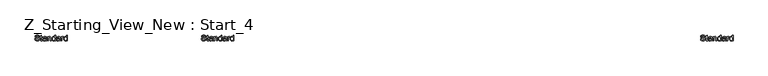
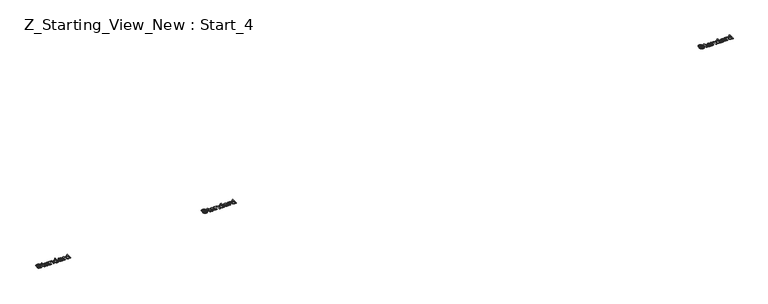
"""IFC4 building model written with IfcOpenShell, lengths in millimetres: pipe fitting geometry, Z_Starting_View_New : Start_4."""

from ifc_helpers import new_model, si_unit, origin, origin_with_axes, place, context, project, spatial, polyline, outline, extrude, source, transform, mapped, element, save


def z_starting_view_new_start_4_25d7ddd4(model_context):
    return source(origin(), model_context, "Body", "SweptSolid", [
        extrude(outline(polyline([(25158.6619591, 7155.3175869), (25171.2189979, 7155.3175869), (25175.2656999, 7142.7482854), (25185.1494628, 7134.8020343), (25200.2080991, 7131.7731392), (25213.3292236, 7134.0662703), (25221.8027722, 7140.3693151), (25224.5864127, 7148.7938128), (25222.501748, 7156.6296993), (25213.9668857, 7162.3318703), (25195.6831506, 7167.1265989), (25176.0014638, 7173.3192792), (25165.3206232, 7182.6634819), (25161.8012188, 7195.1469442), (25166.1544891, 7209.359452), (25178.8709434, 7219.3903677), (25197.4857724, 7222.8116703), (25217.3514001, 7219.2309522), (25230.5951519, 7208.7095271), (25235.5738216, 7192.9887032), (25223.0167828, 7192.9887032), (25220.711389, 7200.4812332), (25215.9043976, 7205.8890985), (25197.9762817, 7210.2546315), (25179.9991149, 7205.9381494), (25174.3582576, 7195.5148262), (25178.3559086, 7186.8082857), (25198.8591985, 7179.7940023), (25221.079271, 7173.4909574), (25233.2316396, 7163.3128889), (25237.1434514, 7149.1126439), (25232.6430284, 7134.0907958), (25219.6935821, 7123.1279123), (25200.6986085, 7119.2161004), (25178.2700695, 7123.4344806), (25164.0820872, 7136.1386722), (25158.6619591, 7155.3175869)])), origin_with_axes(), (0.0, 0.0, 1.0), 5.0),
        extrude(outline(polyline([(25281.0930871, 7131.2581044), (25282.662717, 7120.4178483), (25273.2694634, 7119.2161004), (25262.7480383, 7121.3007651), (25257.4995885, 7126.7699441), (25255.9790096, 7141.01924), (25255.9790096, 7182.0012943), (25246.5612305, 7182.0012943), (25246.5612305, 7194.558333), (25255.9790096, 7194.558333), (25255.9790096, 7212.4864489), (25268.5360484, 7219.8686143), (25268.5360484, 7194.558333), (25281.0930871, 7194.558333), (25281.0930871, 7182.0012943), (25268.5360484, 7182.0012943), (25268.5360484, 7141.387122), (25269.198236, 7134.9123989), (25271.3442143, 7132.6192678), (25275.6239081, 7131.7731392), (25281.0930871, 7131.2581044)])), origin_with_axes(), (0.0, 0.0, 1.0), 5.0),
        extrude(outline(polyline([(25340.7390213, 7130.2035093), (25328.5621272, 7121.6931725), (25315.109909, 7119.2161004), (25304.616075, 7120.7060225), (25296.8752247, 7125.1757887), (25292.1019558, 7131.9632116), (25290.5108662, 7140.4061033), (25292.9143619, 7150.3389172), (25299.2296695, 7157.5494043), (25308.0220492, 7161.6696827), (25318.8868308, 7163.5581436), (25340.6654449, 7167.8746256), (25340.7390213, 7170.6705288), (25337.2809305, 7179.9411551), (25323.3995166, 7183.5709241), (25310.695325, 7181.1551657), (25304.6375348, 7172.5835152), (25292.0804961, 7174.153145), (25297.5128868, 7186.4158782), (25308.4512448, 7193.6018398), (25325.0181974, 7196.1279629), (25340.2362492, 7193.8961454), (25348.8324252, 7188.2920764), (25352.6829234, 7179.7694768), (25353.2960601, 7168.7820679), (25353.2960601, 7153.1593458), (25353.9337222, 7131.3439435), (25356.4353197, 7120.7857303), (25343.878281, 7120.7857303), (25340.7390213, 7130.2035093)]), holes=[polyline([(25340.7390213, 7155.3175869), (25320.4809861, 7151.4670887), (25309.6775182, 7149.431475), (25304.7846876, 7146.120537), (25303.067905, 7141.2890201), (25306.8080386, 7134.495466), (25317.7831848, 7131.7731392), (25330.4873764, 7134.7775088), (25338.6788821, 7142.0493096), (25340.6654449, 7151.7613943), (25340.7390213, 7155.3175869)])]), origin_with_axes(), (0.0, 0.0, 1.0), 5.0),
        extrude(outline(polyline([(25370.5619884, 7120.7857303), (25370.5619884, 7194.558333), (25383.1190271, 7194.558333), (25383.1190271, 7184.2576372), (25392.7207472, 7193.1603815), (25405.829609, 7196.1279629), (25417.6876719, 7193.7367299), (25425.7810758, 7187.4582105), (25429.5457349, 7178.2243724), (25430.2079225, 7166.0842666), (25430.2079225, 7120.7857303), (25417.6508837, 7120.7857303), (25417.6508837, 7164.3920094), (25416.2038812, 7175.5020457), (25411.0903215, 7181.3758949), (25402.4696201, 7183.5709241), (25388.8457235, 7178.6413054), (25384.5507012, 7171.4982633), (25383.1190271, 7159.9283746), (25383.1190271, 7120.7857303), (25370.5619884, 7120.7857303)])), origin_with_axes(), (0.0, 0.0, 1.0), 5.0),
        extrude(outline(polyline([(25492.9931164, 7120.7857303), (25492.9931164, 7132.6315305), (25484.6851146, 7122.5699579), (25473.201065, 7119.2161004), (25457.6519193, 7124.0721428), (25446.6645104, 7137.6224629), (25442.7649613, 7157.5984553), (25446.3579421, 7177.5867103), (25457.1246218, 7191.3454969), (25473.1520141, 7196.1279629), (25484.7280342, 7192.7066603), (25492.9931164, 7183.8161788), (25492.9931164, 7221.2420404), (25505.5501551, 7221.2420404), (25505.5501551, 7120.7857303), (25492.9931164, 7120.7857303)]), holes=[polyline([(25455.322, 7157.6475062), (25456.7383457, 7146.2891496), (25460.9873828, 7138.2110741), (25467.1616689, 7133.3826229), (25474.3537619, 7131.7731392), (25481.5427893, 7133.3090465), (25487.5607256, 7137.9167685), (25491.6350187, 7145.6821443), (25492.9931164, 7156.691013), (25491.6104932, 7168.7268856), (25487.4626237, 7177.0716755), (25481.2914032, 7181.946112), (25473.8387271, 7183.5709241), (25466.5730577, 7182.0104913), (25460.6195008, 7177.3291929), (25456.6463752, 7169.2879056), (25455.322, 7157.6475062)])]), origin_with_axes(), (0.0, 0.0, 1.0), 5.0),
        extrude(outline(polyline([(25571.4746087, 7130.2035093), (25559.2977146, 7121.6931725), (25545.8454963, 7119.2161004), (25535.3516624, 7120.7060225), (25527.6108121, 7125.1757887), (25522.8375432, 7131.9632116), (25521.2464536, 7140.4061033), (25523.6499493, 7150.3389172), (25529.9652569, 7157.5494043), (25538.7576366, 7161.6696827), (25549.6224181, 7163.5581436), (25571.4010323, 7167.8746256), (25571.4746087, 7170.6705288), (25568.0165179, 7179.9411551), (25554.135104, 7183.5709241), (25541.4309124, 7181.1551657), (25535.3731222, 7172.5835152), (25522.8160834, 7174.153145), (25528.2484742, 7186.4158782), (25539.1868322, 7193.6018398), (25555.7537847, 7196.1279629), (25570.9718366, 7193.8961454), (25579.5680126, 7188.2920764), (25583.4185108, 7179.7694768), (25584.0316474, 7168.7820679), (25584.0316474, 7153.1593458), (25584.6693096, 7131.3439435), (25587.1709071, 7120.7857303), (25574.6138683, 7120.7857303), (25571.4746087, 7130.2035093)]), holes=[polyline([(25571.4746087, 7155.3175869), (25551.2165735, 7151.4670887), (25540.4131055, 7149.431475), (25535.520275, 7146.120537), (25533.8034924, 7141.2890201), (25537.543626, 7134.495466), (25548.5187722, 7131.7731392), (25561.2229637, 7134.7775088), (25569.4144695, 7142.0493096), (25571.4010323, 7151.7613943), (25571.4746087, 7155.3175869)])]), origin_with_axes(), (0.0, 0.0, 1.0), 5.0),
        extrude(outline(polyline([(25601.2975757, 7120.7857303), (25601.2975757, 7194.558333), (25612.2849847, 7194.558333), (25612.2849847, 7183.6445005), (25620.084083, 7193.6999417), (25627.9322322, 7196.1279629), (25640.5383219, 7192.2529392), (25636.3444671, 7180.9957501), (25627.5152993, 7183.5709241), (25620.4151767, 7181.093852), (25615.8902282, 7174.2267214), (25613.8546145, 7159.5604926), (25613.8546145, 7120.7857303), (25601.2975757, 7120.7857303)])), origin_with_axes(), (0.0, 0.0, 1.0), 5.0),
        extrude(outline(polyline([(25693.9057367, 7120.7857303), (25693.9057367, 7132.6315305), (25685.5977349, 7122.5699579), (25674.1136853, 7119.2161004), (25658.5645396, 7124.0721428), (25647.5771307, 7137.6224629), (25643.6775816, 7157.5984553), (25647.2705624, 7177.5867103), (25658.0372421, 7191.3454969), (25674.0646344, 7196.1279629), (25685.6406545, 7192.7066603), (25693.9057367, 7183.8161788), (25693.9057367, 7221.2420404), (25706.4627754, 7221.2420404), (25706.4627754, 7120.7857303), (25693.9057367, 7120.7857303)]), holes=[polyline([(25656.2346203, 7157.6475062), (25657.650966, 7146.2891496), (25661.9000031, 7138.2110741), (25668.0742892, 7133.3826229), (25675.2663822, 7131.7731392), (25682.4554096, 7133.3090465), (25688.4733459, 7137.9167685), (25692.547639, 7145.6821443), (25693.9057367, 7156.691013), (25692.5231135, 7168.7268856), (25688.375244, 7177.0716755), (25682.2040235, 7181.946112), (25674.7513474, 7183.5709241), (25667.485678, 7182.0104913), (25661.5321211, 7177.3291929), (25657.5589955, 7169.2879056), (25656.2346203, 7157.6475062)])]), origin_with_axes(), (0.0, 0.0, 1.0), 5.0),
        extrude(outline(polyline([(33558.6619591, 7155.3175869), (33571.2189979, 7155.3175869), (33575.2656999, 7142.7482854), (33585.1494628, 7134.8020343), (33600.2080991, 7131.7731392), (33613.3292236, 7134.0662703), (33621.8027722, 7140.3693151), (33624.5864127, 7148.7938128), (33622.501748, 7156.6296993), (33613.9668857, 7162.3318703), (33595.6831506, 7167.1265989), (33576.0014638, 7173.3192792), (33565.3206232, 7182.6634819), (33561.8012188, 7195.1469442), (33566.1544891, 7209.359452), (33578.8709434, 7219.3903677), (33597.4857724, 7222.8116703), (33617.3514001, 7219.2309522), (33630.5951519, 7208.7095271), (33635.5738216, 7192.9887032), (33623.0167828, 7192.9887032), (33620.711389, 7200.4812332), (33615.9043976, 7205.8890985), (33597.9762817, 7210.2546315), (33579.9991149, 7205.9381494), (33574.3582576, 7195.5148262), (33578.3559086, 7186.8082857), (33598.8591985, 7179.7940023), (33621.079271, 7173.4909574), (33633.2316396, 7163.3128889), (33637.1434514, 7149.1126439), (33632.6430284, 7134.0907958), (33619.6935821, 7123.1279123), (33600.6986085, 7119.2161004), (33578.2700695, 7123.4344806), (33564.0820872, 7136.1386722), (33558.6619591, 7155.3175869)])), origin_with_axes(), (0.0, 0.0, 1.0), 5.0),
        extrude(outline(polyline([(33681.0930871, 7131.2581044), (33682.662717, 7120.4178483), (33673.2694634, 7119.2161004), (33662.7480383, 7121.3007651), (33657.4995885, 7126.7699441), (33655.9790096, 7141.01924), (33655.9790096, 7182.0012943), (33646.5612305, 7182.0012943), (33646.5612305, 7194.558333), (33655.9790096, 7194.558333), (33655.9790096, 7212.4864489), (33668.5360484, 7219.8686143), (33668.5360484, 7194.558333), (33681.0930871, 7194.558333), (33681.0930871, 7182.0012943), (33668.5360484, 7182.0012943), (33668.5360484, 7141.387122), (33669.198236, 7134.9123989), (33671.3442143, 7132.6192678), (33675.6239081, 7131.7731392), (33681.0930871, 7131.2581044)])), origin_with_axes(), (0.0, 0.0, 1.0), 5.0),
        extrude(outline(polyline([(33740.7390213, 7130.2035093), (33728.5621272, 7121.6931725), (33715.109909, 7119.2161004), (33704.616075, 7120.7060225), (33696.8752247, 7125.1757887), (33692.1019558, 7131.9632116), (33690.5108662, 7140.4061033), (33692.9143619, 7150.3389172), (33699.2296695, 7157.5494043), (33708.0220492, 7161.6696827), (33718.8868308, 7163.5581436), (33740.6654449, 7167.8746256), (33740.7390213, 7170.6705288), (33737.2809305, 7179.9411551), (33723.3995166, 7183.5709241), (33710.695325, 7181.1551657), (33704.6375348, 7172.5835152), (33692.0804961, 7174.153145), (33697.5128868, 7186.4158782), (33708.4512448, 7193.6018398), (33725.0181974, 7196.1279629), (33740.2362492, 7193.8961454), (33748.8324252, 7188.2920764), (33752.6829234, 7179.7694768), (33753.2960601, 7168.7820679), (33753.2960601, 7153.1593458), (33753.9337222, 7131.3439435), (33756.4353197, 7120.7857303), (33743.878281, 7120.7857303), (33740.7390213, 7130.2035093)]), holes=[polyline([(33740.7390213, 7155.3175869), (33720.4809861, 7151.4670887), (33709.6775182, 7149.431475), (33704.7846876, 7146.120537), (33703.067905, 7141.2890201), (33706.8080386, 7134.495466), (33717.7831848, 7131.7731392), (33730.4873764, 7134.7775088), (33738.6788821, 7142.0493096), (33740.6654449, 7151.7613943), (33740.7390213, 7155.3175869)])]), origin_with_axes(), (0.0, 0.0, 1.0), 5.0),
        extrude(outline(polyline([(33770.5619884, 7120.7857303), (33770.5619884, 7194.558333), (33783.1190271, 7194.558333), (33783.1190271, 7184.2576372), (33792.7207472, 7193.1603815), (33805.829609, 7196.1279629), (33817.6876719, 7193.7367299), (33825.7810758, 7187.4582105), (33829.5457349, 7178.2243724), (33830.2079225, 7166.0842666), (33830.2079225, 7120.7857303), (33817.6508837, 7120.7857303), (33817.6508837, 7164.3920094), (33816.2038812, 7175.5020457), (33811.0903215, 7181.3758949), (33802.4696201, 7183.5709241), (33788.8457235, 7178.6413054), (33784.5507012, 7171.4982633), (33783.1190271, 7159.9283746), (33783.1190271, 7120.7857303), (33770.5619884, 7120.7857303)])), origin_with_axes(), (0.0, 0.0, 1.0), 5.0),
        extrude(outline(polyline([(33892.9931164, 7120.7857303), (33892.9931164, 7132.6315305), (33884.6851146, 7122.5699579), (33873.201065, 7119.2161004), (33857.6519193, 7124.0721428), (33846.6645104, 7137.6224629), (33842.7649613, 7157.5984552), (33846.3579421, 7177.5867103), (33857.1246218, 7191.3454969), (33873.1520141, 7196.1279629), (33884.7280342, 7192.7066603), (33892.9931164, 7183.8161788), (33892.9931164, 7221.2420404), (33905.5501551, 7221.2420404), (33905.5501551, 7120.7857303), (33892.9931164, 7120.7857303)]), holes=[polyline([(33855.322, 7157.6475062), (33856.7383457, 7146.2891496), (33860.9873828, 7138.2110741), (33867.1616689, 7133.3826229), (33874.3537619, 7131.7731392), (33881.5427893, 7133.3090465), (33887.5607256, 7137.9167685), (33891.6350187, 7145.6821443), (33892.9931164, 7156.691013), (33891.6104932, 7168.7268856), (33887.4626237, 7177.0716755), (33881.2914032, 7181.946112), (33873.8387271, 7183.5709241), (33866.5730577, 7182.0104913), (33860.6195008, 7177.3291929), (33856.6463752, 7169.2879056), (33855.322, 7157.6475062)])]), origin_with_axes(), (0.0, 0.0, 1.0), 5.0),
        extrude(outline(polyline([(33971.4746087, 7130.2035093), (33959.2977146, 7121.6931725), (33945.8454963, 7119.2161004), (33935.3516624, 7120.7060225), (33927.6108121, 7125.1757887), (33922.8375432, 7131.9632116), (33921.2464536, 7140.4061033), (33923.6499493, 7150.3389172), (33929.9652569, 7157.5494043), (33938.7576366, 7161.6696827), (33949.6224181, 7163.5581436), (33971.4010323, 7167.8746256), (33971.4746087, 7170.6705288), (33968.0165179, 7179.9411551), (33954.135104, 7183.5709241), (33941.4309124, 7181.1551657), (33935.3731222, 7172.5835152), (33922.8160834, 7174.153145), (33928.2484742, 7186.4158782), (33939.1868322, 7193.6018398), (33955.7537847, 7196.1279629), (33970.9718366, 7193.8961454), (33979.5680126, 7188.2920764), (33983.4185108, 7179.7694768), (33984.0316474, 7168.7820679), (33984.0316474, 7153.1593458), (33984.6693096, 7131.3439435), (33987.1709071, 7120.7857303), (33974.6138683, 7120.7857303), (33971.4746087, 7130.2035093)]), holes=[polyline([(33971.4746087, 7155.3175869), (33951.2165735, 7151.4670887), (33940.4131055, 7149.431475), (33935.520275, 7146.120537), (33933.8034924, 7141.2890201), (33937.543626, 7134.495466), (33948.5187722, 7131.7731392), (33961.2229637, 7134.7775088), (33969.4144695, 7142.0493096), (33971.4010323, 7151.7613943), (33971.4746087, 7155.3175869)])]), origin_with_axes(), (0.0, 0.0, 1.0), 5.0),
        extrude(outline(polyline([(34001.2975757, 7120.7857303), (34001.2975757, 7194.558333), (34012.2849847, 7194.558333), (34012.2849847, 7183.6445005), (34020.084083, 7193.6999417), (34027.9322322, 7196.1279629), (34040.5383219, 7192.2529392), (34036.3444671, 7180.9957501), (34027.5152993, 7183.5709241), (34020.4151767, 7181.093852), (34015.8902282, 7174.2267214), (34013.8546145, 7159.5604926), (34013.8546145, 7120.7857303), (34001.2975757, 7120.7857303)])), origin_with_axes(), (0.0, 0.0, 1.0), 5.0),
        extrude(outline(polyline([(34093.9057367, 7120.7857303), (34093.9057367, 7132.6315305), (34085.5977349, 7122.5699579), (34074.1136853, 7119.2161004), (34058.5645396, 7124.0721428), (34047.5771307, 7137.6224629), (34043.6775816, 7157.5984552), (34047.2705624, 7177.5867103), (34058.0372421, 7191.3454969), (34074.0646344, 7196.1279629), (34085.6406545, 7192.7066603), (34093.9057367, 7183.8161788), (34093.9057367, 7221.2420404), (34106.4627754, 7221.2420404), (34106.4627754, 7120.7857303), (34093.9057367, 7120.7857303)]), holes=[polyline([(34056.2346203, 7157.6475062), (34057.650966, 7146.2891496), (34061.9000031, 7138.2110741), (34068.0742892, 7133.3826229), (34075.2663822, 7131.7731392), (34082.4554096, 7133.3090465), (34088.4733459, 7137.9167685), (34092.547639, 7145.6821443), (34093.9057367, 7156.691013), (34092.5231135, 7168.7268856), (34088.375244, 7177.0716755), (34082.2040235, 7181.946112), (34074.7513474, 7183.5709241), (34067.485678, 7182.0104913), (34061.5321211, 7177.3291929), (34057.5589955, 7169.2879056), (34056.2346203, 7157.6475062)])]), origin_with_axes(), (0.0, 0.0, 1.0), 5.0),
        extrude(outline(polyline([(22570.5619884, 7120.7857303), (22570.5619884, 7194.558333), (22583.1190271, 7194.558333), (22583.1190271, 7184.2576372), (22592.7207472, 7193.1603815), (22605.829609, 7196.1279629), (22617.6876719, 7193.7367299), (22625.7810758, 7187.4582105), (22629.5457349, 7178.2243724), (22630.2079225, 7166.0842666), (22630.2079225, 7120.7857303), (22617.6508837, 7120.7857303), (22617.6508837, 7164.3920094), (22616.2038812, 7175.5020457), (22611.0903215, 7181.3758949), (22602.4696201, 7183.5709241), (22588.8457235, 7178.6413054), (22584.5507012, 7171.4982633), (22583.1190271, 7159.9283746), (22583.1190271, 7120.7857303), (22570.5619884, 7120.7857303)])), origin_with_axes(), (0.0, 0.0, 1.0), 5.0),
        extrude(outline(polyline([(22358.6619591, 7155.3175869), (22371.2189979, 7155.3175869), (22375.2656999, 7142.7482854), (22385.1494628, 7134.8020343), (22400.2080991, 7131.7731392), (22413.3292236, 7134.0662703), (22421.8027722, 7140.3693151), (22424.5864127, 7148.7938128), (22422.501748, 7156.6296993), (22413.9668857, 7162.3318703), (22395.6831506, 7167.1265989), (22376.0014638, 7173.3192792), (22365.3206232, 7182.6634819), (22361.8012188, 7195.1469442), (22366.1544891, 7209.359452), (22378.8709434, 7219.3903677), (22397.4857724, 7222.8116703), (22417.3514001, 7219.2309522), (22430.5951519, 7208.7095271), (22435.5738216, 7192.9887032), (22423.0167828, 7192.9887032), (22420.711389, 7200.4812332), (22415.9043976, 7205.8890985), (22397.9762817, 7210.2546315), (22379.9991149, 7205.9381494), (22374.3582576, 7195.5148262), (22378.3559086, 7186.8082857), (22398.8591985, 7179.7940023), (22421.079271, 7173.4909574), (22433.2316396, 7163.3128889), (22437.1434514, 7149.1126439), (22432.6430284, 7134.0907958), (22419.6935821, 7123.1279123), (22400.6986085, 7119.2161004), (22378.2700695, 7123.4344806), (22364.0820872, 7136.1386722), (22358.6619591, 7155.3175869)])), origin_with_axes(), (0.0, 0.0, 1.0), 5.0),
        extrude(outline(polyline([(22481.0930871, 7131.2581044), (22482.662717, 7120.4178483), (22473.2694634, 7119.2161004), (22462.7480383, 7121.3007651), (22457.4995885, 7126.7699441), (22455.9790096, 7141.01924), (22455.9790096, 7182.0012943), (22446.5612305, 7182.0012943), (22446.5612305, 7194.558333), (22455.9790096, 7194.558333), (22455.9790096, 7212.4864489), (22468.5360484, 7219.8686143), (22468.5360484, 7194.558333), (22481.0930871, 7194.558333), (22481.0930871, 7182.0012943), (22468.5360484, 7182.0012943), (22468.5360484, 7141.387122), (22469.198236, 7134.9123989), (22471.3442143, 7132.6192678), (22475.6239081, 7131.7731392), (22481.0930871, 7131.2581044)])), origin_with_axes(), (0.0, 0.0, 1.0), 5.0),
        extrude(outline(polyline([(22540.7390213, 7130.2035093), (22528.5621272, 7121.6931725), (22515.109909, 7119.2161004), (22504.616075, 7120.7060225), (22496.8752247, 7125.1757887), (22492.1019558, 7131.9632116), (22490.5108662, 7140.4061033), (22492.9143619, 7150.3389172), (22499.2296695, 7157.5494043), (22508.0220492, 7161.6696827), (22518.8868308, 7163.5581436), (22540.6654449, 7167.8746256), (22540.7390213, 7170.6705288), (22537.2809305, 7179.9411551), (22523.3995166, 7183.5709241), (22510.695325, 7181.1551657), (22504.6375348, 7172.5835152), (22492.0804961, 7174.153145), (22497.5128868, 7186.4158782), (22508.4512448, 7193.6018398), (22525.0181974, 7196.1279629), (22540.2362492, 7193.8961454), (22548.8324252, 7188.2920764), (22552.6829234, 7179.7694768), (22553.2960601, 7168.7820679), (22553.2960601, 7153.1593458), (22553.9337222, 7131.3439435), (22556.4353197, 7120.7857303), (22543.878281, 7120.7857303), (22540.7390213, 7130.2035093)]), holes=[polyline([(22540.7390213, 7155.3175869), (22520.4809861, 7151.4670887), (22509.6775182, 7149.431475), (22504.7846876, 7146.120537), (22503.067905, 7141.2890201), (22506.8080386, 7134.495466), (22517.7831848, 7131.7731392), (22530.4873764, 7134.7775088), (22538.6788821, 7142.0493096), (22540.6654449, 7151.7613943), (22540.7390213, 7155.3175869)])]), origin_with_axes(), (0.0, 0.0, 1.0), 5.0),
        extrude(outline(polyline([(22692.9931164, 7120.7857303), (22692.9931164, 7132.6315305), (22684.6851146, 7122.5699579), (22673.201065, 7119.2161004), (22657.6519193, 7124.0721428), (22646.6645104, 7137.6224629), (22642.7649613, 7157.5984553), (22646.3579421, 7177.5867103), (22657.1246218, 7191.3454969), (22673.1520141, 7196.1279629), (22684.7280342, 7192.7066603), (22692.9931164, 7183.8161788), (22692.9931164, 7221.2420404), (22705.5501551, 7221.2420404), (22705.5501551, 7120.7857303), (22692.9931164, 7120.7857303)]), holes=[polyline([(22655.322, 7157.6475062), (22656.7383457, 7146.2891496), (22660.9873828, 7138.2110741), (22667.1616689, 7133.3826229), (22674.3537619, 7131.7731392), (22681.5427893, 7133.3090465), (22687.5607256, 7137.9167685), (22691.6350187, 7145.6821443), (22692.9931164, 7156.691013), (22691.6104932, 7168.7268856), (22687.4626237, 7177.0716755), (22681.2914032, 7181.946112), (22673.8387271, 7183.5709241), (22666.5730577, 7182.0104913), (22660.6195008, 7177.3291929), (22656.6463752, 7169.2879056), (22655.322, 7157.6475062)])]), origin_with_axes(), (0.0, 0.0, 1.0), 5.0),
        extrude(outline(polyline([(22771.4746087, 7130.2035093), (22759.2977146, 7121.6931725), (22745.8454963, 7119.2161004), (22735.3516624, 7120.7060225), (22727.6108121, 7125.1757887), (22722.8375432, 7131.9632116), (22721.2464536, 7140.4061033), (22723.6499493, 7150.3389172), (22729.9652569, 7157.5494043), (22738.7576366, 7161.6696827), (22749.6224181, 7163.5581436), (22771.4010323, 7167.8746256), (22771.4746087, 7170.6705288), (22768.0165179, 7179.9411551), (22754.135104, 7183.5709241), (22741.4309124, 7181.1551657), (22735.3731222, 7172.5835152), (22722.8160834, 7174.153145), (22728.2484742, 7186.4158782), (22739.1868322, 7193.6018398), (22755.7537847, 7196.1279629), (22770.9718366, 7193.8961454), (22779.5680126, 7188.2920764), (22783.4185108, 7179.7694768), (22784.0316474, 7168.7820679), (22784.0316474, 7153.1593458), (22784.6693096, 7131.3439435), (22787.1709071, 7120.7857303), (22774.6138683, 7120.7857303), (22771.4746087, 7130.2035093)]), holes=[polyline([(22771.4746087, 7155.3175869), (22751.2165735, 7151.4670887), (22740.4131055, 7149.431475), (22735.520275, 7146.120537), (22733.8034924, 7141.2890201), (22737.543626, 7134.495466), (22748.5187722, 7131.7731392), (22761.2229637, 7134.7775088), (22769.4144695, 7142.0493096), (22771.4010323, 7151.7613943), (22771.4746087, 7155.3175869)])]), origin_with_axes(), (0.0, 0.0, 1.0), 5.0),
        extrude(outline(polyline([(22801.2975757, 7120.7857303), (22801.2975757, 7194.558333), (22812.2849847, 7194.558333), (22812.2849847, 7183.6445005), (22820.084083, 7193.6999417), (22827.9322322, 7196.1279629), (22840.5383219, 7192.2529392), (22836.3444671, 7180.9957501), (22827.5152993, 7183.5709241), (22820.4151767, 7181.093852), (22815.8902282, 7174.2267214), (22813.8546145, 7159.5604926), (22813.8546145, 7120.7857303), (22801.2975757, 7120.7857303)])), origin_with_axes(), (0.0, 0.0, 1.0), 5.0),
        extrude(outline(polyline([(22893.9057367, 7120.7857303), (22893.9057367, 7132.6315305), (22885.5977349, 7122.5699579), (22874.1136853, 7119.2161004), (22858.5645396, 7124.0721428), (22847.5771307, 7137.6224629), (22843.6775816, 7157.5984553), (22847.2705624, 7177.5867103), (22858.0372421, 7191.3454969), (22874.0646344, 7196.1279629), (22885.6406545, 7192.7066603), (22893.9057367, 7183.8161788), (22893.9057367, 7221.2420404), (22906.4627754, 7221.2420404), (22906.4627754, 7120.7857303), (22893.9057367, 7120.7857303)]), holes=[polyline([(22856.2346203, 7157.6475062), (22857.650966, 7146.2891496), (22861.9000031, 7138.2110741), (22868.0742892, 7133.3826229), (22875.2663822, 7131.7731392), (22882.4554096, 7133.3090465), (22888.4733459, 7137.9167685), (22892.547639, 7145.6821443), (22893.9057367, 7156.691013), (22892.5231135, 7168.7268856), (22888.375244, 7177.0716755), (22882.2040235, 7181.946112), (22874.7513474, 7183.5709241), (22867.485678, 7182.0104913), (22861.5321211, 7177.3291929), (22857.5589955, 7169.2879056), (22856.2346203, 7157.6475062)])]), origin_with_axes(), (0.0, 0.0, 1.0), 5.0),
    ])


if __name__ == "__main__":
    model = new_model("IFC4")
    model_context = context("Model", 3, world=origin())
    ifc_project = project(units=[si_unit("LENGTHUNIT", "METRE", prefix="MILLI")], contexts=[model_context])
    site = spatial("IfcSite", under=ifc_project)
    building = spatial("IfcBuilding", under=site)
    placement = place(None, origin())
    z_starting_view_new_start_4_shape = z_starting_view_new_start_4_25d7ddd4(model_context)
    element("IfcPipeFitting", 1, ObjectType="Z_Starting_View_New : Start_4", at=placement, inside=building, context=model_context, shape_type="MappedRepresentation", body=[
        mapped(z_starting_view_new_start_4_shape, transform((0.0, 0.0, 0.0), x_axis=(1.0, 0.0, 0.0), y_axis=(0.0, 1.0, 0.0), z_axis=(0.0, 0.0, 1.0))),
    ])
    save(model, "model.ifc")
